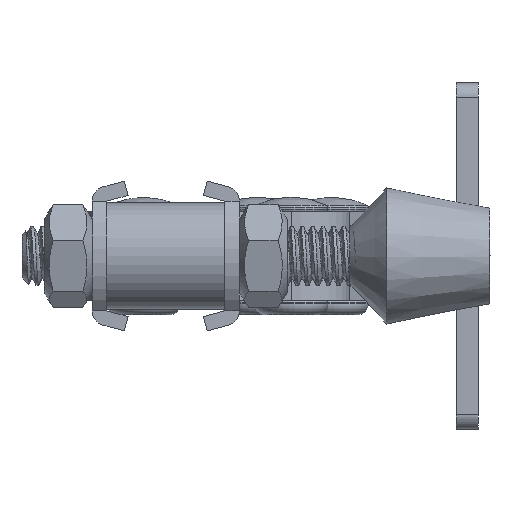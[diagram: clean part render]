
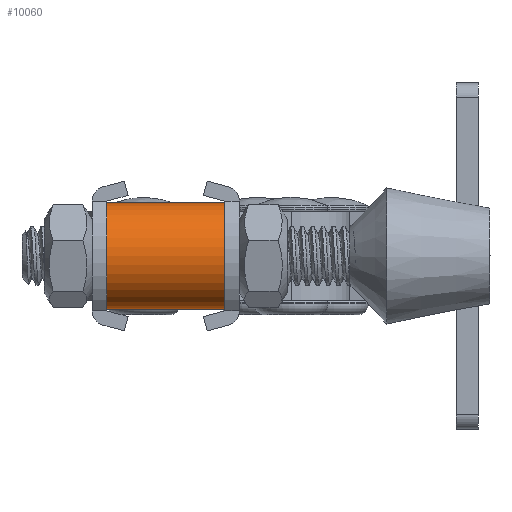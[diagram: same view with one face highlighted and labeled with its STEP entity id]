
A CAD part, left-side view. The second image highlights one B-rep face of the part: STEP entity #10060.
In plain terms, the highlighted cylindrical face has radius 7.2 mm (diameter 14.4 mm), a partial arc.
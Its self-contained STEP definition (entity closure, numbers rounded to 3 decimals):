
#1131=FACE_OUTER_BOUND('',#1711,.T.);
#1711=EDGE_LOOP('',(#7254,#7255,#7256,#7257));
#2285=LINE('',#13666,#3128);
#2350=LINE('',#15079,#3193);
#3128=VECTOR('',#11512,1000.);
#3193=VECTOR('',#11579,1000.);
#4007=CIRCLE('',#10857,7.2);
#4008=CIRCLE('',#10859,7.2);
#4220=VERTEX_POINT('',#13663);
#4221=VERTEX_POINT('',#13665);
#4398=VERTEX_POINT('',#15077);
#4399=VERTEX_POINT('',#15078);
#5274=EDGE_CURVE('',#4221,#4220,#2285,.T.);
#5452=EDGE_CURVE('',#4398,#4399,#2350,.T.);
#5593=EDGE_CURVE('',#4221,#4398,#4007,.T.);
#5594=EDGE_CURVE('',#4399,#4220,#4008,.T.);
#7254=ORIENTED_EDGE('',*,*,#5274,.T.);
#7255=ORIENTED_EDGE('',*,*,#5594,.F.);
#7256=ORIENTED_EDGE('',*,*,#5452,.F.);
#7257=ORIENTED_EDGE('',*,*,#5593,.F.);
#9925=CYLINDRICAL_SURFACE('',#10870,7.2);
#10060=ADVANCED_FACE('',(#1131),#9925,.T.);
#10857=AXIS2_PLACEMENT_3D('',#15917,#11749,#11750);
#10859=AXIS2_PLACEMENT_3D('',#15919,#11753,#11754);
#10870=AXIS2_PLACEMENT_3D('',#15945,#11783,#11784);
#11512=DIRECTION('',(0.,-1.,0.));
#11579=DIRECTION('',(0.,-1.,0.));
#11749=DIRECTION('center_axis',(0.,1.,0.));
#11750=DIRECTION('ref_axis',(1.,0.,0.));
#11753=DIRECTION('center_axis',(0.,-1.,0.));
#11754=DIRECTION('ref_axis',(-1.,0.,0.));
#11783=DIRECTION('center_axis',(0.,-1.,0.));
#11784=DIRECTION('ref_axis',(0.,0.,-1.));
#13663=CARTESIAN_POINT('',(-58.8,-11.,0.));
#13665=CARTESIAN_POINT('',(-58.8,5.,0.));
#13666=CARTESIAN_POINT('',(-58.8,8.,0.));
#15077=CARTESIAN_POINT('',(-58.8,5.,14.4));
#15078=CARTESIAN_POINT('',(-58.8,-11.,14.4));
#15079=CARTESIAN_POINT('',(-58.8,8.,14.4));
#15917=CARTESIAN_POINT('Origin',(-58.8,5.,7.2));
#15919=CARTESIAN_POINT('Origin',(-58.8,-11.,7.2));
#15945=CARTESIAN_POINT('Origin',(-58.8,8.,7.2));
